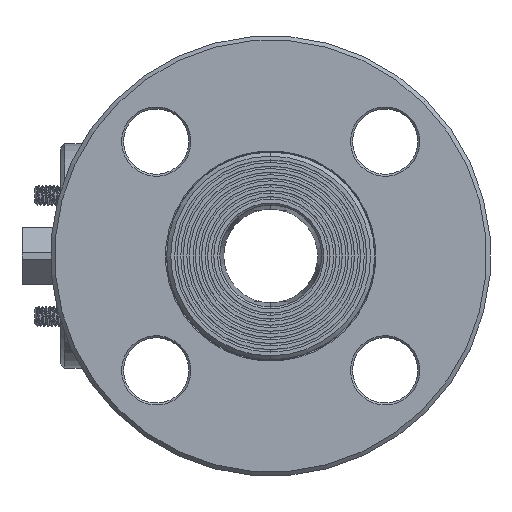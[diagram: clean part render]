
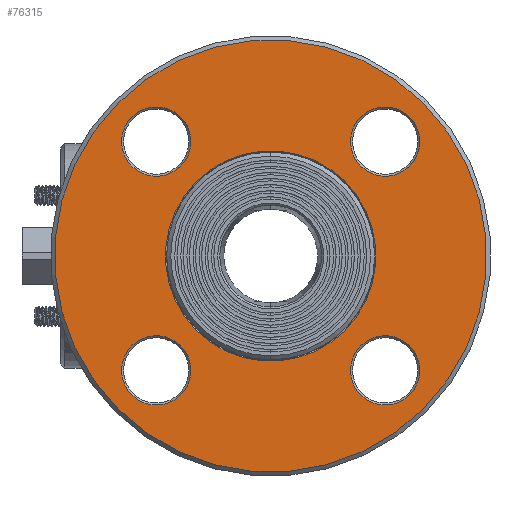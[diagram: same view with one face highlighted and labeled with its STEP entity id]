
A CAD part, left-side view. The second image highlights one B-rep face of the part: STEP entity #76315.
In plain terms, the highlighted planar face has unit normal (-1, 0, 0).
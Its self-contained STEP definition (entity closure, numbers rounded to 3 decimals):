
#37655=CARTESIAN_POINT('',(-60.5,0.,0.));
#37656=DIRECTION('',(-1.,0.,0.));
#37657=DIRECTION('',(0.,0.707,-0.707));
#37658=AXIS2_PLACEMENT_3D('',#37655,#37656,#37657);
#37663=CARTESIAN_POINT('',(-60.5,0.,0.));
#37664=DIRECTION('',(-1.,0.,0.));
#37665=DIRECTION('',(0.,-0.707,0.707));
#37666=AXIS2_PLACEMENT_3D('',#37663,#37664,#37665);
#37671=CARTESIAN_POINT('',(-60.5,0.,0.));
#37672=DIRECTION('',(-1.,0.,0.));
#37673=DIRECTION('',(0.,-0.707,0.707));
#37674=AXIS2_PLACEMENT_3D('',#37671,#37672,#37673);
#37679=CARTESIAN_POINT('',(-60.5,0.,0.));
#37680=DIRECTION('',(-1.,0.,0.));
#37681=DIRECTION('',(0.,0.707,-0.707));
#37682=AXIS2_PLACEMENT_3D('',#37679,#37680,#37681);
#37687=CARTESIAN_POINT('',(-60.5,-28.072,28.072));
#37688=DIRECTION('',(1.,0.,0.));
#37689=DIRECTION('',(0.,-0.707,0.707));
#37690=AXIS2_PLACEMENT_3D('',#37687,#37688,#37689);
#37695=CARTESIAN_POINT('',(-60.5,-28.072,28.072));
#37696=DIRECTION('',(1.,0.,0.));
#37697=DIRECTION('',(0.,0.707,-0.707));
#37698=AXIS2_PLACEMENT_3D('',#37695,#37696,#37697);
#37703=CARTESIAN_POINT('',(-60.5,28.072,28.072));
#37704=DIRECTION('',(1.,0.,0.));
#37705=DIRECTION('',(0.,-0.707,0.707));
#37706=AXIS2_PLACEMENT_3D('',#37703,#37704,#37705);
#37711=CARTESIAN_POINT('',(-60.5,28.072,28.072));
#37712=DIRECTION('',(1.,0.,0.));
#37713=DIRECTION('',(0.,0.707,-0.707));
#37714=AXIS2_PLACEMENT_3D('',#37711,#37712,#37713);
#37719=CARTESIAN_POINT('',(-60.5,28.072,-28.072));
#37720=DIRECTION('',(1.,0.,0.));
#37721=DIRECTION('',(0.,-0.707,0.707));
#37722=AXIS2_PLACEMENT_3D('',#37719,#37720,#37721);
#37727=CARTESIAN_POINT('',(-60.5,28.072,-28.072));
#37728=DIRECTION('',(1.,0.,0.));
#37729=DIRECTION('',(0.,0.707,-0.707));
#37730=AXIS2_PLACEMENT_3D('',#37727,#37728,#37729);
#37735=CARTESIAN_POINT('',(-60.5,-28.072,-28.072));
#37736=DIRECTION('',(1.,0.,0.));
#37737=DIRECTION('',(0.,-0.707,0.707));
#37738=AXIS2_PLACEMENT_3D('',#37735,#37736,#37737);
#37743=CARTESIAN_POINT('',(-60.5,-28.072,-28.072));
#37744=DIRECTION('',(1.,0.,0.));
#37745=DIRECTION('',(0.,0.707,-0.707));
#37746=AXIS2_PLACEMENT_3D('',#37743,#37744,#37745);
#45137=CARTESIAN_POINT('',(-60.5,37.477,-37.477));
#45138=CARTESIAN_POINT('',(-60.5,-37.477,37.477));
#45139=VERTEX_POINT('',#45137);
#45140=VERTEX_POINT('',#45138);
#45157=CARTESIAN_POINT('',(-60.5,-18.243,18.243));
#45158=CARTESIAN_POINT('',(-60.5,18.243,-18.243));
#45159=VERTEX_POINT('',#45157);
#45160=VERTEX_POINT('',#45158);
#45161=CARTESIAN_POINT('',(-60.5,-34.082,34.082));
#45162=CARTESIAN_POINT('',(-60.5,-22.062,22.062));
#45163=VERTEX_POINT('',#45161);
#45164=VERTEX_POINT('',#45162);
#45169=CARTESIAN_POINT('',(-60.5,22.062,34.082));
#45170=CARTESIAN_POINT('',(-60.5,34.082,22.062));
#45171=VERTEX_POINT('',#45169);
#45172=VERTEX_POINT('',#45170);
#45177=CARTESIAN_POINT('',(-60.5,22.062,-22.062));
#45178=CARTESIAN_POINT('',(-60.5,34.082,-34.082));
#45179=VERTEX_POINT('',#45177);
#45180=VERTEX_POINT('',#45178);
#45185=CARTESIAN_POINT('',(-60.5,-34.082,-22.062));
#45186=CARTESIAN_POINT('',(-60.5,-22.062,-34.082));
#45187=VERTEX_POINT('',#45185);
#45188=VERTEX_POINT('',#45186);
#76275=CARTESIAN_POINT('',(-60.5,0.,0.));
#76276=DIRECTION('',(-1.,0.,0.));
#76277=DIRECTION('',(0.,0.707,-0.707));
#76278=AXIS2_PLACEMENT_3D('',#76275,#76276,#76277);
#76279=PLANE('',#76278);
#76281=ORIENTED_EDGE('',*,*,#76280,.F.);
#76282=ORIENTED_EDGE('',*,*,#76265,.F.);
#76283=EDGE_LOOP('',(#76281,#76282));
#76284=FACE_OUTER_BOUND('',#76283,.F.);
#76286=ORIENTED_EDGE('',*,*,#76285,.T.);
#76288=ORIENTED_EDGE('',*,*,#76287,.T.);
#76289=EDGE_LOOP('',(#76286,#76288));
#76290=FACE_BOUND('',#76289,.F.);
#76292=ORIENTED_EDGE('',*,*,#76291,.F.);
#76294=ORIENTED_EDGE('',*,*,#76293,.F.);
#76295=EDGE_LOOP('',(#76292,#76294));
#76296=FACE_BOUND('',#76295,.F.);
#76298=ORIENTED_EDGE('',*,*,#76297,.F.);
#76300=ORIENTED_EDGE('',*,*,#76299,.F.);
#76301=EDGE_LOOP('',(#76298,#76300));
#76302=FACE_BOUND('',#76301,.F.);
#76304=ORIENTED_EDGE('',*,*,#76303,.F.);
#76306=ORIENTED_EDGE('',*,*,#76305,.F.);
#76307=EDGE_LOOP('',(#76304,#76306));
#76308=FACE_BOUND('',#76307,.F.);
#76310=ORIENTED_EDGE('',*,*,#76309,.F.);
#76312=ORIENTED_EDGE('',*,*,#76311,.F.);
#76313=EDGE_LOOP('',(#76310,#76312));
#76314=FACE_BOUND('',#76313,.F.);
#76315=ADVANCED_FACE('',(#76284,#76290,#76296,#76302,#76308,#76314),#76279,.T.);
#37659=CIRCLE('',#37658,53.);
#37667=CIRCLE('',#37666,53.);
#37675=CIRCLE('',#37674,25.8);
#37683=CIRCLE('',#37682,25.8);
#37691=CIRCLE('',#37690,8.5);
#37699=CIRCLE('',#37698,8.5);
#37707=CIRCLE('',#37706,8.5);
#37715=CIRCLE('',#37714,8.5);
#37723=CIRCLE('',#37722,8.5);
#37731=CIRCLE('',#37730,8.5);
#37739=CIRCLE('',#37738,8.5);
#37747=CIRCLE('',#37746,8.5);
#76265=EDGE_CURVE('',#45140,#45139,#37667,.T.);
#76280=EDGE_CURVE('',#45139,#45140,#37659,.T.);
#76285=EDGE_CURVE('',#45159,#45160,#37675,.T.);
#76287=EDGE_CURVE('',#45160,#45159,#37683,.T.);
#76291=EDGE_CURVE('',#45163,#45164,#37691,.T.);
#76293=EDGE_CURVE('',#45164,#45163,#37699,.T.);
#76297=EDGE_CURVE('',#45171,#45172,#37707,.T.);
#76299=EDGE_CURVE('',#45172,#45171,#37715,.T.);
#76303=EDGE_CURVE('',#45179,#45180,#37723,.T.);
#76305=EDGE_CURVE('',#45180,#45179,#37731,.T.);
#76309=EDGE_CURVE('',#45187,#45188,#37739,.T.);
#76311=EDGE_CURVE('',#45188,#45187,#37747,.T.);
